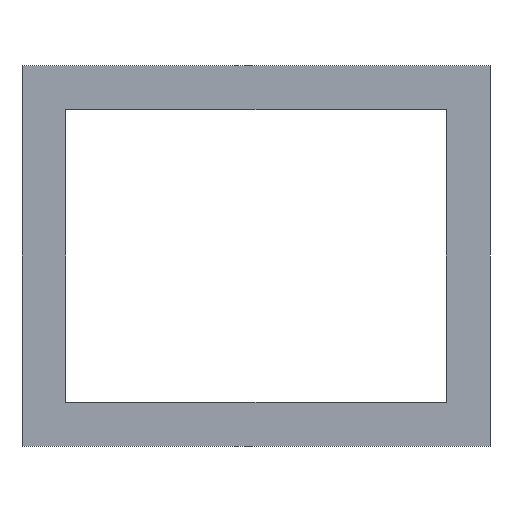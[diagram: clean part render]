
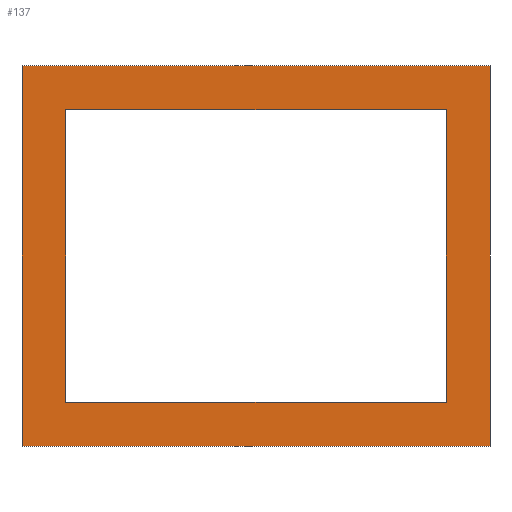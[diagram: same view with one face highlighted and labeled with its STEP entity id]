
A CAD part, front view. The second image highlights one B-rep face of the part: STEP entity #137.
In plain terms, the highlighted planar face has unit normal (0, -1, 0).
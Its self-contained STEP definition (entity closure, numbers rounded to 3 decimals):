
#21 = EDGE_CURVE('',#22,#24,#26,.T.);
#22 = VERTEX_POINT('',#23);
#23 = CARTESIAN_POINT('',(-32.,-23.425,26.8));
#24 = VERTEX_POINT('',#25);
#25 = CARTESIAN_POINT('',(-32.,-23.425,78.8));
#26 = SURFACE_CURVE('',#27,(#31,#43),.PCURVE_S1.);
#27 = LINE('',#28,#29);
#28 = CARTESIAN_POINT('',(-32.,-23.425,26.8));
#29 = VECTOR('',#30,1.);
#30 = DIRECTION('',(0.,0.,1.));
#31 = PCURVE('',#32,#37);
#32 = PLANE('',#33);
#33 = AXIS2_PLACEMENT_3D('',#34,#35,#36);
#34 = CARTESIAN_POINT('',(-32.,-23.425,26.8));
#35 = DIRECTION('',(1.,0.,0.));
#36 = DIRECTION('',(0.,0.,1.));
#37 = DEFINITIONAL_REPRESENTATION('',(#38),#42);
#38 = LINE('',#39,#40);
#39 = CARTESIAN_POINT('',(0.,0.));
#40 = VECTOR('',#41,1.);
#41 = DIRECTION('',(1.,0.));
#42 = ( GEOMETRIC_REPRESENTATION_CONTEXT(2) 
PARAMETRIC_REPRESENTATION_CONTEXT() REPRESENTATION_CONTEXT('2D SPACE',''
  ) );
#43 = PCURVE('',#44,#49);
#44 = PLANE('',#45);
#45 = AXIS2_PLACEMENT_3D('',#46,#47,#48);
#46 = CARTESIAN_POINT('',(-32.,-23.425,26.8));
#47 = DIRECTION('',(0.,1.,0.));
#48 = DIRECTION('',(0.,0.,1.));
#49 = DEFINITIONAL_REPRESENTATION('',(#50),#54);
#50 = LINE('',#51,#52);
#51 = CARTESIAN_POINT('',(0.,0.));
#52 = VECTOR('',#53,1.);
#53 = DIRECTION('',(1.,0.));
#54 = ( GEOMETRIC_REPRESENTATION_CONTEXT(2) 
PARAMETRIC_REPRESENTATION_CONTEXT() REPRESENTATION_CONTEXT('2D SPACE',''
  ) );
#72 = PLANE('',#73);
#73 = AXIS2_PLACEMENT_3D('',#74,#75,#76);
#74 = CARTESIAN_POINT('',(-32.,-23.425,26.8));
#75 = DIRECTION('',(0.,0.,1.));
#76 = DIRECTION('',(1.,0.,0.));
#126 = PLANE('',#127);
#127 = AXIS2_PLACEMENT_3D('',#128,#129,#130);
#128 = CARTESIAN_POINT('',(-32.,-23.425,78.8));
#129 = DIRECTION('',(0.,0.,1.));
#130 = DIRECTION('',(1.,0.,0.));
#137 = ADVANCED_FACE('',(#138,#213),#44,.F.);
#138 = FACE_BOUND('',#139,.F.);
#139 = EDGE_LOOP('',(#140,#163,#164,#187));
#140 = ORIENTED_EDGE('',*,*,#141,.F.);
#141 = EDGE_CURVE('',#22,#142,#144,.T.);
#142 = VERTEX_POINT('',#143);
#143 = CARTESIAN_POINT('',(32.,-23.425,26.8));
#144 = SURFACE_CURVE('',#145,(#149,#156),.PCURVE_S1.);
#145 = LINE('',#146,#147);
#146 = CARTESIAN_POINT('',(-32.,-23.425,26.8));
#147 = VECTOR('',#148,1.);
#148 = DIRECTION('',(1.,0.,0.));
#149 = PCURVE('',#44,#150);
#150 = DEFINITIONAL_REPRESENTATION('',(#151),#155);
#151 = LINE('',#152,#153);
#152 = CARTESIAN_POINT('',(0.,0.));
#153 = VECTOR('',#154,1.);
#154 = DIRECTION('',(0.,1.));
#155 = ( GEOMETRIC_REPRESENTATION_CONTEXT(2) 
PARAMETRIC_REPRESENTATION_CONTEXT() REPRESENTATION_CONTEXT('2D SPACE',''
  ) );
#156 = PCURVE('',#72,#157);
#157 = DEFINITIONAL_REPRESENTATION('',(#158),#162);
#158 = LINE('',#159,#160);
#159 = CARTESIAN_POINT('',(0.,0.));
#160 = VECTOR('',#161,1.);
#161 = DIRECTION('',(1.,0.));
#162 = ( GEOMETRIC_REPRESENTATION_CONTEXT(2) 
PARAMETRIC_REPRESENTATION_CONTEXT() REPRESENTATION_CONTEXT('2D SPACE',''
  ) );
#163 = ORIENTED_EDGE('',*,*,#21,.T.);
#164 = ORIENTED_EDGE('',*,*,#165,.T.);
#165 = EDGE_CURVE('',#24,#166,#168,.T.);
#166 = VERTEX_POINT('',#167);
#167 = CARTESIAN_POINT('',(32.,-23.425,78.8));
#168 = SURFACE_CURVE('',#169,(#173,#180),.PCURVE_S1.);
#169 = LINE('',#170,#171);
#170 = CARTESIAN_POINT('',(-32.,-23.425,78.8));
#171 = VECTOR('',#172,1.);
#172 = DIRECTION('',(1.,0.,0.));
#173 = PCURVE('',#44,#174);
#174 = DEFINITIONAL_REPRESENTATION('',(#175),#179);
#175 = LINE('',#176,#177);
#176 = CARTESIAN_POINT('',(52.,0.));
#177 = VECTOR('',#178,1.);
#178 = DIRECTION('',(0.,1.));
#179 = ( GEOMETRIC_REPRESENTATION_CONTEXT(2) 
PARAMETRIC_REPRESENTATION_CONTEXT() REPRESENTATION_CONTEXT('2D SPACE',''
  ) );
#180 = PCURVE('',#126,#181);
#181 = DEFINITIONAL_REPRESENTATION('',(#182),#186);
#182 = LINE('',#183,#184);
#183 = CARTESIAN_POINT('',(0.,0.));
#184 = VECTOR('',#185,1.);
#185 = DIRECTION('',(1.,0.));
#186 = ( GEOMETRIC_REPRESENTATION_CONTEXT(2) 
PARAMETRIC_REPRESENTATION_CONTEXT() REPRESENTATION_CONTEXT('2D SPACE',''
  ) );
#187 = ORIENTED_EDGE('',*,*,#188,.F.);
#188 = EDGE_CURVE('',#142,#166,#189,.T.);
#189 = SURFACE_CURVE('',#190,(#194,#201),.PCURVE_S1.);
#190 = LINE('',#191,#192);
#191 = CARTESIAN_POINT('',(32.,-23.425,26.8));
#192 = VECTOR('',#193,1.);
#193 = DIRECTION('',(0.,0.,1.));
#194 = PCURVE('',#44,#195);
#195 = DEFINITIONAL_REPRESENTATION('',(#196),#200);
#196 = LINE('',#197,#198);
#197 = CARTESIAN_POINT('',(0.,64.));
#198 = VECTOR('',#199,1.);
#199 = DIRECTION('',(1.,0.));
#200 = ( GEOMETRIC_REPRESENTATION_CONTEXT(2) 
PARAMETRIC_REPRESENTATION_CONTEXT() REPRESENTATION_CONTEXT('2D SPACE',''
  ) );
#201 = PCURVE('',#202,#207);
#202 = PLANE('',#203);
#203 = AXIS2_PLACEMENT_3D('',#204,#205,#206);
#204 = CARTESIAN_POINT('',(32.,-23.425,26.8));
#205 = DIRECTION('',(1.,0.,0.));
#206 = DIRECTION('',(0.,0.,1.));
#207 = DEFINITIONAL_REPRESENTATION('',(#208),#212);
#208 = LINE('',#209,#210);
#209 = CARTESIAN_POINT('',(0.,0.));
#210 = VECTOR('',#211,1.);
#211 = DIRECTION('',(1.,0.));
#212 = ( GEOMETRIC_REPRESENTATION_CONTEXT(2) 
PARAMETRIC_REPRESENTATION_CONTEXT() REPRESENTATION_CONTEXT('2D SPACE',''
  ) );
#213 = FACE_BOUND('',#214,.F.);
#214 = EDGE_LOOP('',(#215,#243,#269,#295));
#215 = ORIENTED_EDGE('',*,*,#216,.F.);
#216 = EDGE_CURVE('',#217,#219,#221,.T.);
#217 = VERTEX_POINT('',#218);
#218 = CARTESIAN_POINT('',(-26.,-23.425,72.8));
#219 = VERTEX_POINT('',#220);
#220 = CARTESIAN_POINT('',(26.,-23.425,72.8));
#221 = SURFACE_CURVE('',#222,(#226,#232),.PCURVE_S1.);
#222 = LINE('',#223,#224);
#223 = CARTESIAN_POINT('',(-29.,-23.425,72.8));
#224 = VECTOR('',#225,1.);
#225 = DIRECTION('',(1.,0.,0.));
#226 = PCURVE('',#44,#227);
#227 = DEFINITIONAL_REPRESENTATION('',(#228),#231);
#228 = B_SPLINE_CURVE_WITH_KNOTS('',1,(#229,#230),.UNSPECIFIED.,.F.,.F.,
  (2,2),(3.,55.),.PIECEWISE_BEZIER_KNOTS.);
#229 = CARTESIAN_POINT('',(46.,6.));
#230 = CARTESIAN_POINT('',(46.,58.));
#231 = ( GEOMETRIC_REPRESENTATION_CONTEXT(2) 
PARAMETRIC_REPRESENTATION_CONTEXT() REPRESENTATION_CONTEXT('2D SPACE',''
  ) );
#232 = PCURVE('',#233,#238);
#233 = PLANE('',#234);
#234 = AXIS2_PLACEMENT_3D('',#235,#236,#237);
#235 = CARTESIAN_POINT('',(-26.,-24.425,72.8));
#236 = DIRECTION('',(0.,0.,1.));
#237 = DIRECTION('',(1.,0.,0.));
#238 = DEFINITIONAL_REPRESENTATION('',(#239),#242);
#239 = B_SPLINE_CURVE_WITH_KNOTS('',1,(#240,#241),.UNSPECIFIED.,.F.,.F.,
  (2,2),(3.,55.),.PIECEWISE_BEZIER_KNOTS.);
#240 = CARTESIAN_POINT('',(0.,1.));
#241 = CARTESIAN_POINT('',(52.,1.));
#242 = ( GEOMETRIC_REPRESENTATION_CONTEXT(2) 
PARAMETRIC_REPRESENTATION_CONTEXT() REPRESENTATION_CONTEXT('2D SPACE',''
  ) );
#243 = ORIENTED_EDGE('',*,*,#244,.T.);
#244 = EDGE_CURVE('',#217,#245,#247,.T.);
#245 = VERTEX_POINT('',#246);
#246 = CARTESIAN_POINT('',(-26.,-23.425,32.8));
#247 = SURFACE_CURVE('',#248,(#252,#258),.PCURVE_S1.);
#248 = LINE('',#249,#250);
#249 = CARTESIAN_POINT('',(-26.,-23.425,29.8));
#250 = VECTOR('',#251,1.);
#251 = DIRECTION('',(0.,0.,-1.));
#252 = PCURVE('',#44,#253);
#253 = DEFINITIONAL_REPRESENTATION('',(#254),#257);
#254 = B_SPLINE_CURVE_WITH_KNOTS('',1,(#255,#256),.UNSPECIFIED.,.F.,.F.,
  (2,2),(-43.,-3.),.PIECEWISE_BEZIER_KNOTS.);
#255 = CARTESIAN_POINT('',(46.,6.));
#256 = CARTESIAN_POINT('',(6.,6.));
#257 = ( GEOMETRIC_REPRESENTATION_CONTEXT(2) 
PARAMETRIC_REPRESENTATION_CONTEXT() REPRESENTATION_CONTEXT('2D SPACE',''
  ) );
#258 = PCURVE('',#259,#264);
#259 = PLANE('',#260);
#260 = AXIS2_PLACEMENT_3D('',#261,#262,#263);
#261 = CARTESIAN_POINT('',(-26.,-24.425,32.8));
#262 = DIRECTION('',(1.,0.,0.));
#263 = DIRECTION('',(0.,0.,1.));
#264 = DEFINITIONAL_REPRESENTATION('',(#265),#268);
#265 = B_SPLINE_CURVE_WITH_KNOTS('',1,(#266,#267),.UNSPECIFIED.,.F.,.F.,
  (2,2),(-43.,-3.),.PIECEWISE_BEZIER_KNOTS.);
#266 = CARTESIAN_POINT('',(40.,-1.));
#267 = CARTESIAN_POINT('',(0.,-1.));
#268 = ( GEOMETRIC_REPRESENTATION_CONTEXT(2) 
PARAMETRIC_REPRESENTATION_CONTEXT() REPRESENTATION_CONTEXT('2D SPACE',''
  ) );
#269 = ORIENTED_EDGE('',*,*,#270,.T.);
#270 = EDGE_CURVE('',#245,#271,#273,.T.);
#271 = VERTEX_POINT('',#272);
#272 = CARTESIAN_POINT('',(26.,-23.425,32.8));
#273 = SURFACE_CURVE('',#274,(#278,#284),.PCURVE_S1.);
#274 = LINE('',#275,#276);
#275 = CARTESIAN_POINT('',(-29.,-23.425,32.8));
#276 = VECTOR('',#277,1.);
#277 = DIRECTION('',(1.,0.,0.));
#278 = PCURVE('',#44,#279);
#279 = DEFINITIONAL_REPRESENTATION('',(#280),#283);
#280 = B_SPLINE_CURVE_WITH_KNOTS('',1,(#281,#282),.UNSPECIFIED.,.F.,.F.,
  (2,2),(3.,55.),.PIECEWISE_BEZIER_KNOTS.);
#281 = CARTESIAN_POINT('',(6.,6.));
#282 = CARTESIAN_POINT('',(6.,58.));
#283 = ( GEOMETRIC_REPRESENTATION_CONTEXT(2) 
PARAMETRIC_REPRESENTATION_CONTEXT() REPRESENTATION_CONTEXT('2D SPACE',''
  ) );
#284 = PCURVE('',#285,#290);
#285 = PLANE('',#286);
#286 = AXIS2_PLACEMENT_3D('',#287,#288,#289);
#287 = CARTESIAN_POINT('',(-26.,-24.425,32.8));
#288 = DIRECTION('',(0.,0.,1.));
#289 = DIRECTION('',(1.,0.,0.));
#290 = DEFINITIONAL_REPRESENTATION('',(#291),#294);
#291 = B_SPLINE_CURVE_WITH_KNOTS('',1,(#292,#293),.UNSPECIFIED.,.F.,.F.,
  (2,2),(3.,55.),.PIECEWISE_BEZIER_KNOTS.);
#292 = CARTESIAN_POINT('',(0.,1.));
#293 = CARTESIAN_POINT('',(52.,1.));
#294 = ( GEOMETRIC_REPRESENTATION_CONTEXT(2) 
PARAMETRIC_REPRESENTATION_CONTEXT() REPRESENTATION_CONTEXT('2D SPACE',''
  ) );
#295 = ORIENTED_EDGE('',*,*,#296,.F.);
#296 = EDGE_CURVE('',#219,#271,#297,.T.);
#297 = SURFACE_CURVE('',#298,(#302,#308),.PCURVE_S1.);
#298 = LINE('',#299,#300);
#299 = CARTESIAN_POINT('',(26.,-23.425,29.8));
#300 = VECTOR('',#301,1.);
#301 = DIRECTION('',(0.,0.,-1.));
#302 = PCURVE('',#44,#303);
#303 = DEFINITIONAL_REPRESENTATION('',(#304),#307);
#304 = B_SPLINE_CURVE_WITH_KNOTS('',1,(#305,#306),.UNSPECIFIED.,.F.,.F.,
  (2,2),(-43.,-3.),.PIECEWISE_BEZIER_KNOTS.);
#305 = CARTESIAN_POINT('',(46.,58.));
#306 = CARTESIAN_POINT('',(6.,58.));
#307 = ( GEOMETRIC_REPRESENTATION_CONTEXT(2) 
PARAMETRIC_REPRESENTATION_CONTEXT() REPRESENTATION_CONTEXT('2D SPACE',''
  ) );
#308 = PCURVE('',#309,#314);
#309 = PLANE('',#310);
#310 = AXIS2_PLACEMENT_3D('',#311,#312,#313);
#311 = CARTESIAN_POINT('',(26.,-24.425,32.8));
#312 = DIRECTION('',(1.,0.,0.));
#313 = DIRECTION('',(0.,0.,1.));
#314 = DEFINITIONAL_REPRESENTATION('',(#315),#318);
#315 = B_SPLINE_CURVE_WITH_KNOTS('',1,(#316,#317),.UNSPECIFIED.,.F.,.F.,
  (2,2),(-43.,-3.),.PIECEWISE_BEZIER_KNOTS.);
#316 = CARTESIAN_POINT('',(40.,-1.));
#317 = CARTESIAN_POINT('',(0.,-1.));
#318 = ( GEOMETRIC_REPRESENTATION_CONTEXT(2) 
PARAMETRIC_REPRESENTATION_CONTEXT() REPRESENTATION_CONTEXT('2D SPACE',''
  ) );
